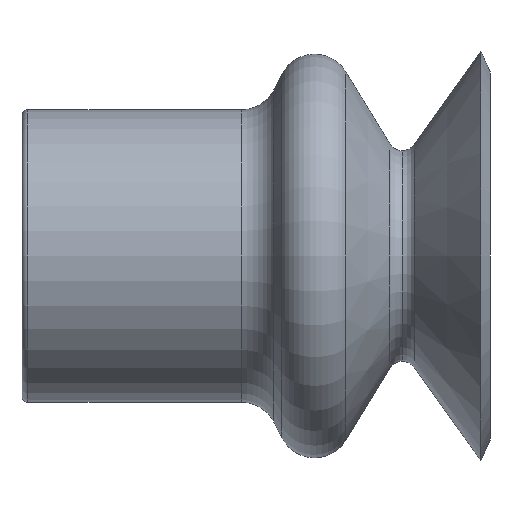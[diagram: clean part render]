
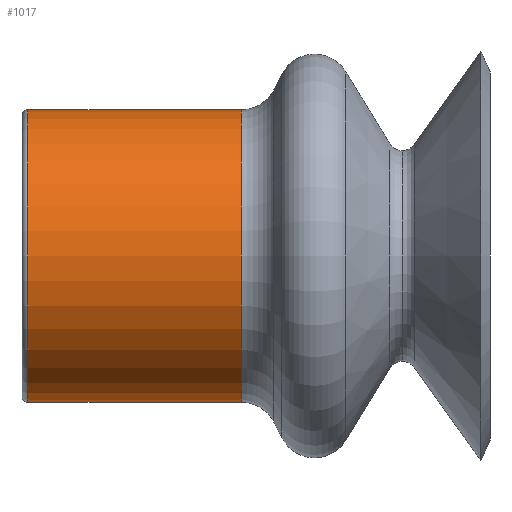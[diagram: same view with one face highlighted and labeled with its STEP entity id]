
A CAD part, left-side view. The second image highlights one B-rep face of the part: STEP entity #1017.
In plain terms, the highlighted cylindrical face has radius 5 mm (diameter 10 mm), a partial arc.
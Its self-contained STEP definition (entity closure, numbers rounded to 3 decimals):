
#2 = DIRECTION ( 'NONE',  ( 0., 1., 0. ) ) ;
#51 = CARTESIAN_POINT ( 'NONE',  ( 0., -7.5, 0. ) ) ;
#124 = DIRECTION ( 'NONE',  ( 0., 0., 1. ) ) ;
#206 = ORIENTED_EDGE ( 'NONE', *, *, #449, .T. ) ;
#217 = FACE_OUTER_BOUND ( 'NONE', #1479, .T. ) ;
#257 = CARTESIAN_POINT ( 'NONE',  ( 0., -0.2, -5. ) ) ;
#263 = VECTOR ( 'NONE', #1337, 1000. ) ;
#273 = CYLINDRICAL_SURFACE ( 'NONE', #336, 5. ) ;
#323 = VECTOR ( 'NONE', #938, 1000. ) ;
#336 = AXIS2_PLACEMENT_3D ( 'NONE', #597, #2, #124 ) ;
#345 = CIRCLE ( 'NONE', #831, 5. ) ;
#400 = DIRECTION ( 'NONE',  ( 0., 0., 1. ) ) ;
#415 = EDGE_CURVE ( 'NONE', #1047, #1083, #907, .T. ) ;
#449 = EDGE_CURVE ( 'NONE', #713, #1047, #980, .T. ) ;
#488 = CARTESIAN_POINT ( 'NONE',  ( 0., -0.2, 5. ) ) ;
#565 = ORIENTED_EDGE ( 'NONE', *, *, #914, .T. ) ;
#586 = CARTESIAN_POINT ( 'NONE',  ( 0., -0.2, 0. ) ) ;
#597 = CARTESIAN_POINT ( 'NONE',  ( 0., 53.08, 0. ) ) ;
#653 = DIRECTION ( 'NONE',  ( 0., 1., 0. ) ) ;
#663 = EDGE_CURVE ( 'NONE', #1269, #1083, #1018, .T. ) ;
#695 = CARTESIAN_POINT ( 'NONE',  ( 0., 53.08, 5. ) ) ;
#705 = ORIENTED_EDGE ( 'NONE', *, *, #415, .T. ) ;
#713 = VERTEX_POINT ( 'NONE', #836 ) ;
#831 = AXIS2_PLACEMENT_3D ( 'NONE', #51, #653, #400 ) ;
#836 = CARTESIAN_POINT ( 'NONE',  ( 0., -7.5, 5. ) ) ;
#869 = AXIS2_PLACEMENT_3D ( 'NONE', #586, #1279, #1528 ) ;
#907 = CIRCLE ( 'NONE', #869, 5. ) ;
#914 = EDGE_CURVE ( 'NONE', #1269, #713, #345, .T. ) ;
#938 = DIRECTION ( 'NONE',  ( 0., 1., 0. ) ) ;
#980 = LINE ( 'NONE', #695, #323 ) ;
#1006 = CARTESIAN_POINT ( 'NONE',  ( 0., 53.08, -5. ) ) ;
#1017 = ADVANCED_FACE ( 'NONE', ( #217 ), #273, .T. ) ;
#1018 = LINE ( 'NONE', #1006, #263 ) ;
#1047 = VERTEX_POINT ( 'NONE', #488 ) ;
#1059 = ORIENTED_EDGE ( 'NONE', *, *, #663, .F. ) ;
#1083 = VERTEX_POINT ( 'NONE', #257 ) ;
#1084 = CARTESIAN_POINT ( 'NONE',  ( 0., -7.5, -5. ) ) ;
#1269 = VERTEX_POINT ( 'NONE', #1084 ) ;
#1279 = DIRECTION ( 'NONE',  ( 0., -1., 0. ) ) ;
#1337 = DIRECTION ( 'NONE',  ( 0., 1., 0. ) ) ;
#1479 = EDGE_LOOP ( 'NONE', ( #1059, #565, #206, #705 ) ) ;
#1528 = DIRECTION ( 'NONE',  ( 0., 0., 1. ) ) ;
